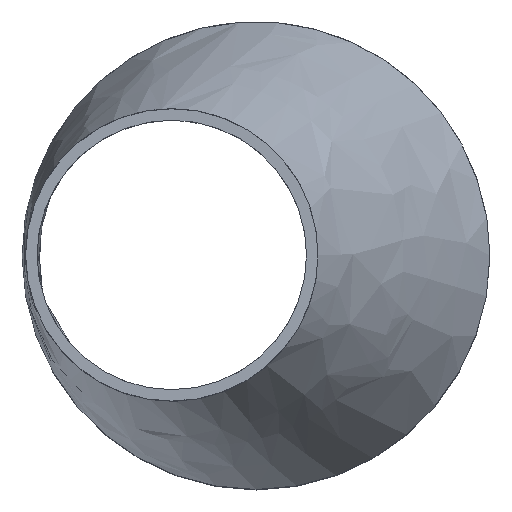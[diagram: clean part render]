
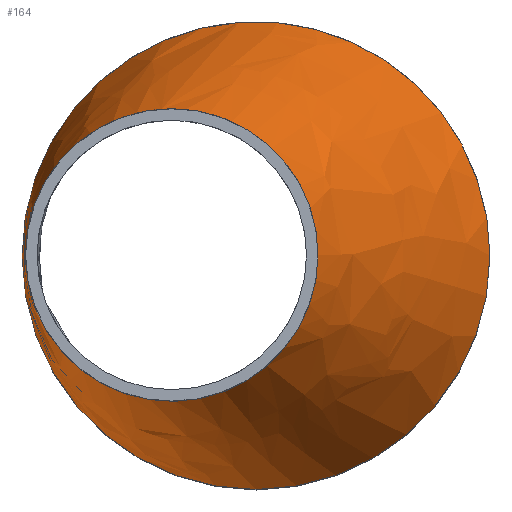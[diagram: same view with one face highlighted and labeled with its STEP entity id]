
A CAD part, top view. The second image highlights one B-rep face of the part: STEP entity #164.
In plain terms, the highlighted free-form (B-spline) face has degree [1, 2] with [2, 9] control points.
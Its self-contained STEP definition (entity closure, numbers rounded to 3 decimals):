
#15=B_SPLINE_CURVE_WITH_KNOTS($,1,(#316,#317),.UNSPECIFIED.,.F.,.F.,(2,
2),(-1.378,0.),.UNSPECIFIED.);
#17=(
BOUNDED_SURFACE()
B_SPLINE_SURFACE(1,2,((#294,#295,#296,#297,#298,#299,#300,#301,#302),(#303,
#304,#305,#306,#307,#308,#309,#310,#311)),.UNSPECIFIED.,.F.,.T.,.F.)
B_SPLINE_SURFACE_WITH_KNOTS((2,2),(3,2,2,2,3),(-0.281,1.534),
(-3.142,-1.571,0.,1.571,3.142),
 .UNSPECIFIED.)
GEOMETRIC_REPRESENTATION_ITEM()
RATIONAL_B_SPLINE_SURFACE(((1.,0.707,1.,0.707,1.,
0.707,1.,0.707,1.),(1.,0.707,1.,0.707,
1.,0.707,1.,0.707,1.)))
REPRESENTATION_ITEM($)
SURFACE()
);
#40=FACE_OUTER_BOUND($,#54,.T.);
#54=EDGE_LOOP($,(#129,#130,#131,#132,#133,#134));
#66=CIRCLE($,#178,100.);
#67=CIRCLE($,#179,100.);
#74=CIRCLE($,#188,62.5);
#75=CIRCLE($,#189,62.5);
#81=VERTEX_POINT($,#256);
#82=VERTEX_POINT($,#257);
#89=VERTEX_POINT($,#312);
#90=VERTEX_POINT($,#313);
#96=EDGE_CURVE($,#81,#82,#66,.T.);
#97=EDGE_CURVE($,#82,#81,#67,.T.);
#105=EDGE_CURVE($,#89,#90,#74,.T.);
#106=EDGE_CURVE($,#90,#89,#75,.T.);
#107=EDGE_CURVE($,#90,#82,#15,.T.);
#129=ORIENTED_EDGE($,*,*,#105,.F.);
#130=ORIENTED_EDGE($,*,*,#106,.F.);
#131=ORIENTED_EDGE($,*,*,#107,.T.);
#132=ORIENTED_EDGE($,*,*,#96,.F.);
#133=ORIENTED_EDGE($,*,*,#97,.F.);
#134=ORIENTED_EDGE($,*,*,#107,.F.);
#164=ADVANCED_FACE($,(#40),#17,.F.);
#178=AXIS2_PLACEMENT_3D($,#258,#210,#211);
#179=AXIS2_PLACEMENT_3D($,#259,#212,#213);
#188=AXIS2_PLACEMENT_3D($,#314,#230,#231);
#189=AXIS2_PLACEMENT_3D($,#315,#232,#233);
#210=DIRECTION('center_axis',(0.,0.,-1.));
#211=DIRECTION('ref_axis',(-1.,0.,0.));
#212=DIRECTION('center_axis',(0.,0.,-1.));
#213=DIRECTION('ref_axis',(-1.,0.,0.));
#230=DIRECTION('center_axis',(0.,0.,1.));
#231=DIRECTION('ref_axis',(-1.,0.,0.));
#232=DIRECTION('center_axis',(0.,0.,1.));
#233=DIRECTION('ref_axis',(-1.,0.,0.));
#256=CARTESIAN_POINT('',(100.,0.,115.));
#257=CARTESIAN_POINT('',(-7.109,99.747,115.));
#258=CARTESIAN_POINT('Origin',(0.,0.,115.));
#259=CARTESIAN_POINT('Origin',(0.,0.,115.));
#294=CARTESIAN_POINT('Ctrl Pts',(-0.306,107.381,88.878));
#295=CARTESIAN_POINT('Ctrl Pts',(-100.612,107.381,62.756));
#296=CARTESIAN_POINT('Ctrl Pts',(-100.612,0.,
62.756));
#297=CARTESIAN_POINT('Ctrl Pts',(-100.612,-107.381,62.756));
#298=CARTESIAN_POINT('Ctrl Pts',(-0.306,-107.381,88.878));
#299=CARTESIAN_POINT('Ctrl Pts',(100.,-107.381,115.));
#300=CARTESIAN_POINT('Ctrl Pts',(100.,0.,115.));
#301=CARTESIAN_POINT('Ctrl Pts',(100.,107.381,115.));
#302=CARTESIAN_POINT('Ctrl Pts',(-0.306,107.381,88.878));
#303=CARTESIAN_POINT('Ctrl Pts',(-44.222,58.102,257.51));
#304=CARTESIAN_POINT('Ctrl Pts',(-98.496,58.102,243.376));
#305=CARTESIAN_POINT('Ctrl Pts',(-98.496,0.,
243.376));
#306=CARTESIAN_POINT('Ctrl Pts',(-98.496,-58.102,243.376));
#307=CARTESIAN_POINT('Ctrl Pts',(-44.222,-58.102,257.51));
#308=CARTESIAN_POINT('Ctrl Pts',(10.052,-58.102,271.644));
#309=CARTESIAN_POINT('Ctrl Pts',(10.052,0.,
271.644));
#310=CARTESIAN_POINT('Ctrl Pts',(10.052,58.102,271.644));
#311=CARTESIAN_POINT('Ctrl Pts',(-44.222,58.102,257.51));
#312=CARTESIAN_POINT('',(26.5,0.,243.));
#313=CARTESIAN_POINT('',(-40.443,62.342,243.));
#314=CARTESIAN_POINT('Origin',(-36.,0.,243.));
#315=CARTESIAN_POINT('Origin',(-36.,0.,243.));
#316=CARTESIAN_POINT('Ctrl Pts',(-40.443,62.342,243.));
#317=CARTESIAN_POINT('Ctrl Pts',(-7.109,99.747,115.));
